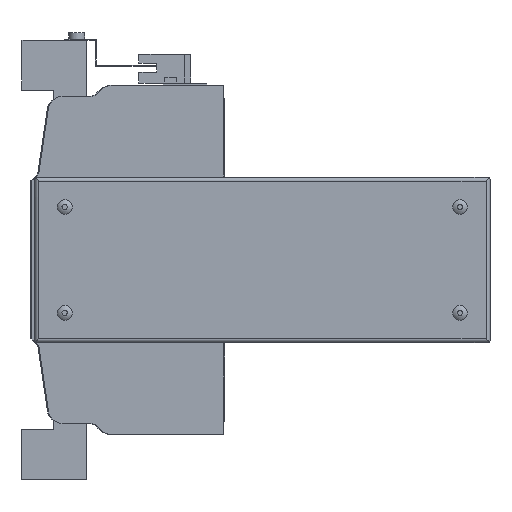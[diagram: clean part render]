
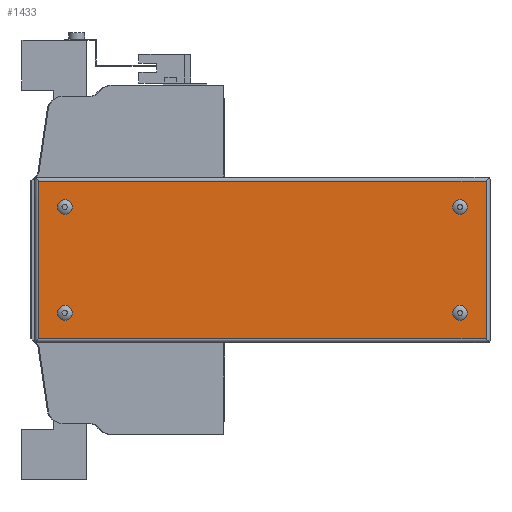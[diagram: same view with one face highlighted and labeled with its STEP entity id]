
A CAD part, left-side view. The second image highlights one B-rep face of the part: STEP entity #1433.
In plain terms, the highlighted planar face has unit normal (-1, 0, 0).
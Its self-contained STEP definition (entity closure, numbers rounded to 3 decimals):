
#1433 = ADVANCED_FACE( '', ( #3033, #3034, #3035, #3036, #3037 ), #3038, .F. );
#3033 = FACE_BOUND( '', #4800, .T. );
#3034 = FACE_BOUND( '', #4801, .T. );
#3035 = FACE_BOUND( '', #4802, .T. );
#3036 = FACE_BOUND( '', #4803, .T. );
#3037 = FACE_OUTER_BOUND( '', #4804, .T. );
#3038 = PLANE( '', #4805 );
#4800 = EDGE_LOOP( '', ( #8590 ) );
#4801 = EDGE_LOOP( '', ( #8591 ) );
#4802 = EDGE_LOOP( '', ( #8592 ) );
#4803 = EDGE_LOOP( '', ( #8593 ) );
#4804 = EDGE_LOOP( '', ( #8594, #8595, #8596, #8597 ) );
#4805 = AXIS2_PLACEMENT_3D( '', #8598, #8599, #8600 );
#8590 = ORIENTED_EDGE( '', *, *, #11633, .F. );
#8591 = ORIENTED_EDGE( '', *, *, #11792, .F. );
#8592 = ORIENTED_EDGE( '', *, *, #10458, .F. );
#8593 = ORIENTED_EDGE( '', *, *, #10285, .F. );
#8594 = ORIENTED_EDGE( '', *, *, #11793, .F. );
#8595 = ORIENTED_EDGE( '', *, *, #10508, .F. );
#8596 = ORIENTED_EDGE( '', *, *, #11256, .T. );
#8597 = ORIENTED_EDGE( '', *, *, #10997, .T. );
#8598 = CARTESIAN_POINT( '', ( -66., -131.95, 40.5 ) );
#8599 = DIRECTION( '', ( 1., 0., 0. ) );
#8600 = DIRECTION( '', ( 0., 0., -1. ) );
#10285 = EDGE_CURVE( '', #12212, #12212, #12213, .F. );
#10458 = EDGE_CURVE( '', #12532, #12532, #12533, .F. );
#10508 = EDGE_CURVE( '', #12622, #12624, #12625, .T. );
#10997 = EDGE_CURVE( '', #13446, #13444, #13447, .T. );
#11256 = EDGE_CURVE( '', #12622, #13446, #13842, .T. );
#11633 = EDGE_CURVE( '', #14373, #14373, #14374, .F. );
#11792 = EDGE_CURVE( '', #14572, #14572, #14573, .F. );
#11793 = EDGE_CURVE( '', #12624, #13444, #14574, .T. );
#12212 = VERTEX_POINT( '', #15061 );
#12213 = CIRCLE( '', #15062, 3.7 );
#12532 = VERTEX_POINT( '', #15501 );
#12533 = CIRCLE( '', #15502, 3.7 );
#12622 = VERTEX_POINT( '', #15625 );
#12624 = VERTEX_POINT( '', #15627 );
#12625 = LINE( '', #15628, #15629 );
#13444 = VERTEX_POINT( '', #16773 );
#13446 = VERTEX_POINT( '', #16775 );
#13447 = LINE( '', #16776, #16777 );
#13842 = LINE( '', #17331, #17332 );
#14373 = VERTEX_POINT( '', #18100 );
#14374 = CIRCLE( '', #18101, 3.7 );
#14572 = VERTEX_POINT( '', #18377 );
#14573 = CIRCLE( '', #18378, 3.7 );
#14574 = LINE( '', #18379, #18380 );
#15061 = CARTESIAN_POINT( '', ( -66., 80.05, -30.2 ) );
#15062 = AXIS2_PLACEMENT_3D( '', #18928, #18929, #18930 );
#15501 = CARTESIAN_POINT( '', ( -66., 80.05, 22.8 ) );
#15502 = AXIS2_PLACEMENT_3D( '', #19153, #19154, #19155 );
#15625 = CARTESIAN_POINT( '', ( -66., 93.05, -39.5 ) );
#15627 = CARTESIAN_POINT( '', ( -66., 93.05, 39.5 ) );
#15628 = CARTESIAN_POINT( '', ( -66., 93.05, -83. ) );
#15629 = VECTOR( '', #19221, 1000. );
#16773 = CARTESIAN_POINT( '', ( -66., -130.95, 39.5 ) );
#16775 = CARTESIAN_POINT( '', ( -66., -130.95, -39.5 ) );
#16776 = CARTESIAN_POINT( '', ( -66., -130.95, -83. ) );
#16777 = VECTOR( '', #19779, 1000. );
#17331 = CARTESIAN_POINT( '', ( -66., 228., -39.5 ) );
#17332 = VECTOR( '', #20066, 1000. );
#18100 = CARTESIAN_POINT( '', ( -66., -117.95, 22.8 ) );
#18101 = AXIS2_PLACEMENT_3D( '', #20414, #20415, #20416 );
#18377 = CARTESIAN_POINT( '', ( -66., -117.95, -30.2 ) );
#18378 = AXIS2_PLACEMENT_3D( '', #20555, #20556, #20557 );
#18379 = CARTESIAN_POINT( '', ( -66., 228., 39.5 ) );
#18380 = VECTOR( '', #20558, 1000. );
#18928 = CARTESIAN_POINT( '', ( -66., 80.05, -26.5 ) );
#18929 = DIRECTION( '', ( 1., 0., 0. ) );
#18930 = DIRECTION( '', ( 0., 0., -1. ) );
#19153 = CARTESIAN_POINT( '', ( -66., 80.05, 26.5 ) );
#19154 = DIRECTION( '', ( 1., 0., 0. ) );
#19155 = DIRECTION( '', ( 0., 0., -1. ) );
#19221 = DIRECTION( '', ( 0., 0., 1. ) );
#19779 = DIRECTION( '', ( 0., 0., 1. ) );
#20066 = DIRECTION( '', ( 0., -1., 0. ) );
#20414 = CARTESIAN_POINT( '', ( -66., -117.95, 26.5 ) );
#20415 = DIRECTION( '', ( 1., 0., 0. ) );
#20416 = DIRECTION( '', ( 0., 0., -1. ) );
#20555 = CARTESIAN_POINT( '', ( -66., -117.95, -26.5 ) );
#20556 = DIRECTION( '', ( 1., 0., 0. ) );
#20557 = DIRECTION( '', ( 0., 0., -1. ) );
#20558 = DIRECTION( '', ( 0., -1., 0. ) );
